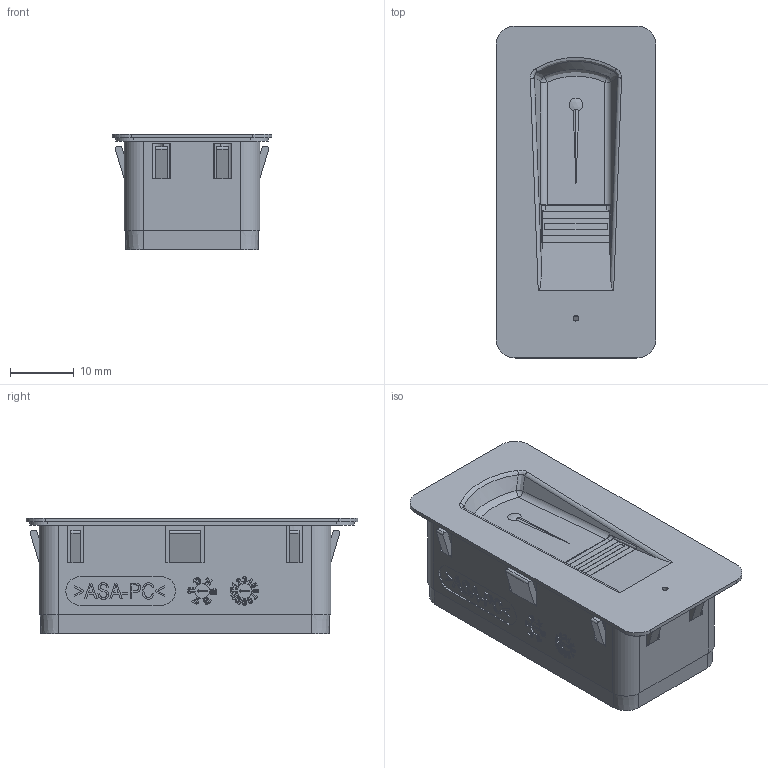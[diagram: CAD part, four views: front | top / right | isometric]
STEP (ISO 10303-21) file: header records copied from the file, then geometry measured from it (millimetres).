
FILE_DESCRIPTION( ( 'FS arte 52x25 screw-on type' ), '1' );
FILE_NAME( 'C:/Users/holp/Desktop/FS arte screw-on type 52x25/3D data FS arte screw-on type 52x25.stp', 'Unknown', ( 'holp' ), ( 'ekey biometric systems' ), 'PSStep 17.0.49', 'Solid Edge', ' ' );
FILE_SCHEMA( ( 'AUTOMOTIVE_DESIGN { 1 0 10303 214 1 1 1 1 }' ) );
Length unit declared in the file: millimetre
Products named in the file (6): Assem1; Frame; Circuit Board; Finger swipe area 52x25; Mounting basket; Sealing
Assembly tree (5 placements, depth 2):
  Assem1
    Frame
    Circuit Board
    Finger swipe area 52x25
    Mounting basket
    Sealing
Bounding box: 25.1 x 52.1 x 18.2 mm (x, y, z)
Volume: 7705.3 mm3; surface area: 15469.7 mm2
Topology: 5 solids, 5 shells, 1732 faces, 4763 edges, 3072 vertices
Faces by surface type: plane 1200, cylinder 245, sphere 195, cone 42, extrusion 26, bspline 24
Full cylindrical faces by diameter (mm): 0.189 x10, 0.9 x1, 2.3 x4
Entity records: 76110 total; most frequent: CARTESIAN_POINT 18291, ORIENTED_EDGE 9282, DIRECTION 8729, EDGE_CURVE 4641, VECTOR 3345, LINE 3319, VERTEX_POINT 3065, AXIS2_PLACEMENT_3D 2692
